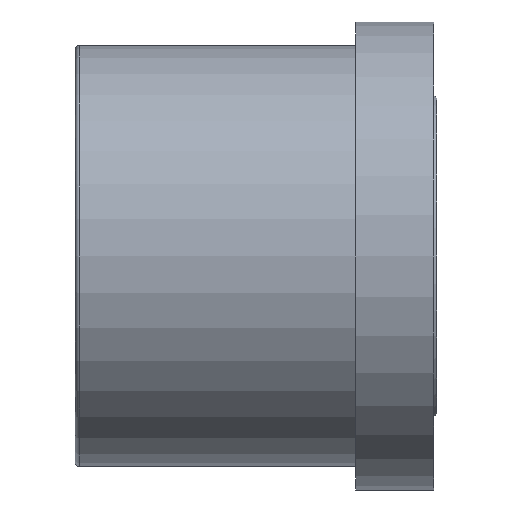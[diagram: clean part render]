
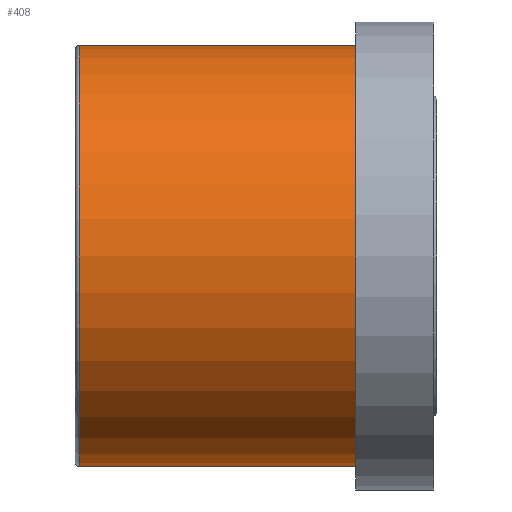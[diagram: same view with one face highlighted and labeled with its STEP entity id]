
A CAD part, left-side view. The second image highlights one B-rep face of the part: STEP entity #408.
In plain terms, the highlighted cylindrical face has radius 27 mm (diameter 54 mm), a partial arc.
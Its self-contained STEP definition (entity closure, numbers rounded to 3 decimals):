
#10 = DIRECTION ( 'NONE',  ( 0., 0., -1. ) ) ;
#30 = DIRECTION ( 'NONE',  ( 0., -1., 0. ) ) ;
#49 = AXIS2_PLACEMENT_3D ( 'NONE', #68, #453, #374 ) ;
#56 = CARTESIAN_POINT ( 'NONE',  ( 0., 35.5, 0. ) ) ;
#68 = CARTESIAN_POINT ( 'NONE',  ( 0., 0., 0. ) ) ;
#86 = CARTESIAN_POINT ( 'NONE',  ( 0., 0., 0. ) ) ;
#92 = AXIS2_PLACEMENT_3D ( 'NONE', #56, #437, #206 ) ;
#114 = CIRCLE ( 'NONE', #92, 27. ) ;
#133 = LINE ( 'NONE', #378, #324 ) ;
#135 = LINE ( 'NONE', #343, #288 ) ;
#158 = VERTEX_POINT ( 'NONE', #345 ) ;
#167 = ORIENTED_EDGE ( 'NONE', *, *, #421, .T. ) ;
#169 = VERTEX_POINT ( 'NONE', #268 ) ;
#174 = AXIS2_PLACEMENT_3D ( 'NONE', #86, #323, #10 ) ;
#200 = CIRCLE ( 'NONE', #174, 27. ) ;
#206 = DIRECTION ( 'NONE',  ( 0., 0., -1. ) ) ;
#223 = CARTESIAN_POINT ( 'NONE',  ( 0., 0., -27. ) ) ;
#226 = ORIENTED_EDGE ( 'NONE', *, *, #496, .F. ) ;
#229 = CYLINDRICAL_SURFACE ( 'NONE', #49, 27. ) ;
#231 = VERTEX_POINT ( 'NONE', #223 ) ;
#244 = EDGE_CURVE ( 'NONE', #169, #158, #133, .T. ) ;
#268 = CARTESIAN_POINT ( 'NONE',  ( 0., 35.5, 27. ) ) ;
#284 = ORIENTED_EDGE ( 'NONE', *, *, #467, .T. ) ;
#288 = VECTOR ( 'NONE', #483, 1000. ) ;
#323 = DIRECTION ( 'NONE',  ( 0., -1., 0. ) ) ;
#324 = VECTOR ( 'NONE', #30, 1000. ) ;
#343 = CARTESIAN_POINT ( 'NONE',  ( 0., 0., -27. ) ) ;
#345 = CARTESIAN_POINT ( 'NONE',  ( 0., 0., 27. ) ) ;
#374 = DIRECTION ( 'NONE',  ( 0., 0., -1. ) ) ;
#378 = CARTESIAN_POINT ( 'NONE',  ( 0., 0., 27. ) ) ;
#381 = VERTEX_POINT ( 'NONE', #390 ) ;
#390 = CARTESIAN_POINT ( 'NONE',  ( 0., 35.5, -27. ) ) ;
#408 = ADVANCED_FACE ( 'NONE', ( #425 ), #229, .T. ) ;
#421 = EDGE_CURVE ( 'NONE', #381, #231, #135, .T. ) ;
#425 = FACE_OUTER_BOUND ( 'NONE', #429, .T. ) ;
#429 = EDGE_LOOP ( 'NONE', ( #458, #284, #167, #226 ) ) ;
#437 = DIRECTION ( 'NONE',  ( 0., -1., 0. ) ) ;
#453 = DIRECTION ( 'NONE',  ( 0., -1., 0. ) ) ;
#458 = ORIENTED_EDGE ( 'NONE', *, *, #244, .F. ) ;
#467 = EDGE_CURVE ( 'NONE', #169, #381, #114, .T. ) ;
#483 = DIRECTION ( 'NONE',  ( 0., -1., 0. ) ) ;
#496 = EDGE_CURVE ( 'NONE', #158, #231, #200, .T. ) ;
